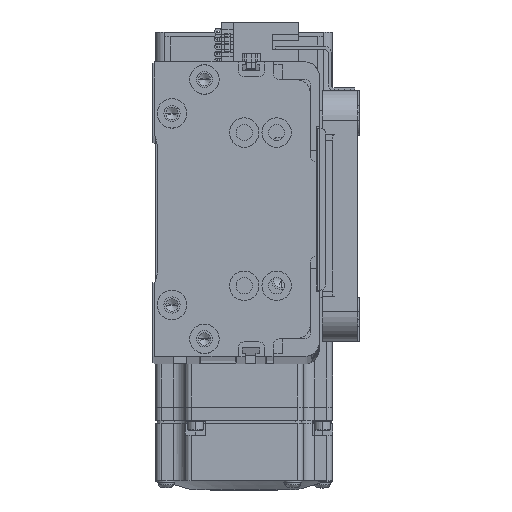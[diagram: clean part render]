
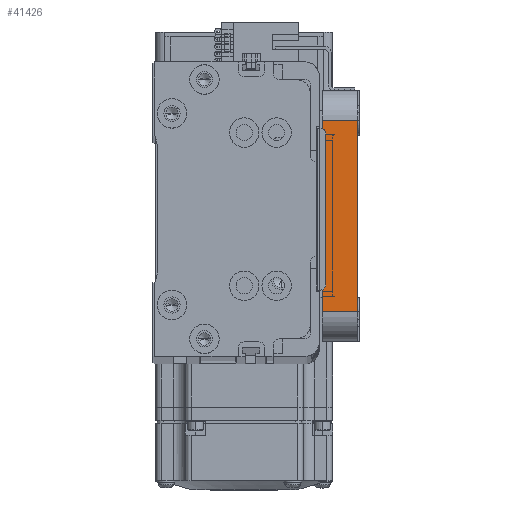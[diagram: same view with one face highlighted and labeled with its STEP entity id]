
A CAD part, top view. The second image highlights one B-rep face of the part: STEP entity #41426.
In plain terms, the highlighted planar face has unit normal (0, 0, 1) as drawn and (-1, 0, 0) by its records, which use the part's own axes.
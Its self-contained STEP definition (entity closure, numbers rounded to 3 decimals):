
#1672 = DIRECTION ( 'NONE',  ( 0., -1., 0. ) ) ;
#4584 = EDGE_LOOP ( 'NONE', ( #53861, #11711, #59817, #37856 ) ) ;
#6143 = LINE ( 'NONE', #27417, #48818 ) ;
#6192 = VERTEX_POINT ( 'NONE', #34701 ) ;
#6809 = CARTESIAN_POINT ( 'NONE',  ( -55., -32.5, 0. ) ) ;
#8481 = EDGE_CURVE ( 'NONE', #6192, #18867, #62265, .T. ) ;
#11711 = ORIENTED_EDGE ( 'NONE', *, *, #36325, .T. ) ;
#14121 = CARTESIAN_POINT ( 'NONE',  ( -55., 32.5, 0. ) ) ;
#18867 = VERTEX_POINT ( 'NONE', #14121 ) ;
#19873 = CARTESIAN_POINT ( 'NONE',  ( -55., -32.5, 12. ) ) ;
#23501 = EDGE_CURVE ( 'NONE', #6192, #69146, #6143, .T. ) ;
#27193 = VECTOR ( 'NONE', #58884, 1000. ) ;
#27417 = CARTESIAN_POINT ( 'NONE',  ( -55., -42.5, 12. ) ) ;
#27524 = DIRECTION ( 'NONE',  ( 0., 0., -1. ) ) ;
#31396 = CARTESIAN_POINT ( 'NONE',  ( -55., 32.5, 12. ) ) ;
#34018 = AXIS2_PLACEMENT_3D ( 'NONE', #49621, #60876, #27524 ) ;
#34701 = CARTESIAN_POINT ( 'NONE',  ( -55., 32.5, 12. ) ) ;
#36325 = EDGE_CURVE ( 'NONE', #48905, #69146, #69898, .T. ) ;
#37856 = ORIENTED_EDGE ( 'NONE', *, *, #8481, .T. ) ;
#40619 = CARTESIAN_POINT ( 'NONE',  ( -55., -42.5, 0. ) ) ;
#40989 = FACE_OUTER_BOUND ( 'NONE', #4584, .T. ) ;
#41426 = ADVANCED_FACE ( 'NONE', ( #40989 ), #60648, .F. ) ;
#44787 = LINE ( 'NONE', #40619, #59653 ) ;
#48818 = VECTOR ( 'NONE', #49513, 1000. ) ;
#48905 = VERTEX_POINT ( 'NONE', #6809 ) ;
#49122 = VECTOR ( 'NONE', #70389, 1000. ) ;
#49513 = DIRECTION ( 'NONE',  ( 0., -1., 0. ) ) ;
#49621 = CARTESIAN_POINT ( 'NONE',  ( -55., -42.5, 12. ) ) ;
#50222 = CARTESIAN_POINT ( 'NONE',  ( -55., -32.5, 12. ) ) ;
#53861 = ORIENTED_EDGE ( 'NONE', *, *, #56619, .T. ) ;
#56619 = EDGE_CURVE ( 'NONE', #18867, #48905, #44787, .T. ) ;
#58884 = DIRECTION ( 'NONE',  ( 0., 0., 1. ) ) ;
#59653 = VECTOR ( 'NONE', #1672, 1000. ) ;
#59817 = ORIENTED_EDGE ( 'NONE', *, *, #23501, .F. ) ;
#60648 = PLANE ( 'NONE',  #34018 ) ;
#60876 = DIRECTION ( 'NONE',  ( 1., 0., 0. ) ) ;
#62265 = LINE ( 'NONE', #31396, #49122 ) ;
#69146 = VERTEX_POINT ( 'NONE', #50222 ) ;
#69898 = LINE ( 'NONE', #19873, #27193 ) ;
#70389 = DIRECTION ( 'NONE',  ( 0., 0., -1. ) ) ;
